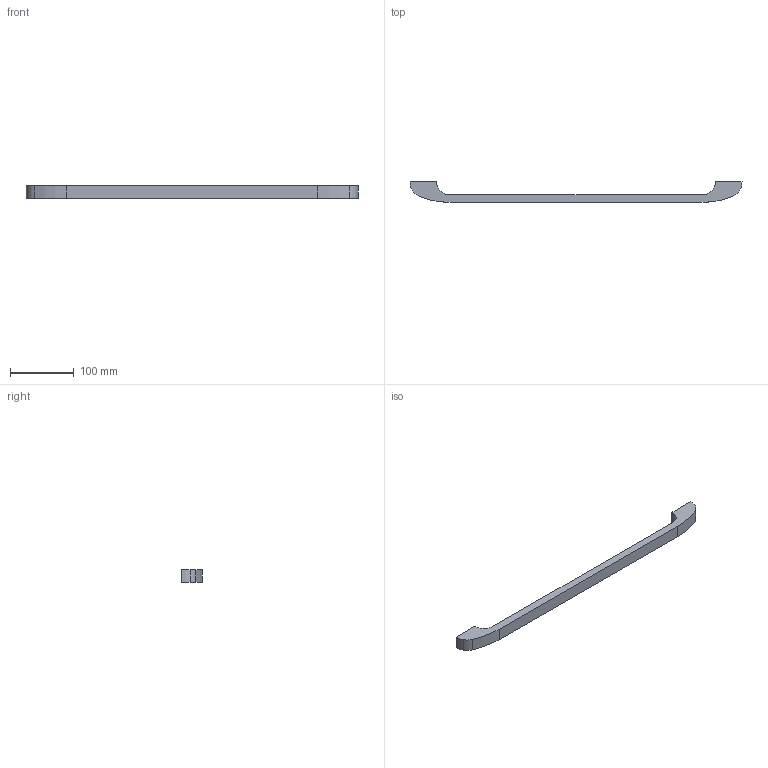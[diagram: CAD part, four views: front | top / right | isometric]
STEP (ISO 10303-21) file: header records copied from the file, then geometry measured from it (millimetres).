
FILE_DESCRIPTION( ( '' ), '1' );
FILE_NAME( 'C:/Documents and Settings/Nikhil/Desktop/Nik/Done/9145056.stp', '2013-10-23T08:50:00', ( '' ), ( '' ), ' ', ' ', ' ' );
FILE_SCHEMA( ( 'automotive_design' ) );
Length unit declared in the file: millimetre
Products named in the file (1): 1
Bounding box: 520 x 32.5 x 20 mm (x, y, z)
Volume: 148866.2 mm3; surface area: 37220.7 mm2
Topology: 1 solids, 1 shells, 22 faces, 54 edges, 36 vertices
Faces by surface type: cylinder 12, plane 10
Entity records: 1312 total; most frequent: DIRECTION 124, STYLED_ITEM 113, PRESENTATION_STYLE_ASSIGNMENT 113, CARTESIAN_POINT 113, COLOUR_RGB 113, ORIENTED_EDGE 108, EDGE_CURVE 54, CURVE_STYLE 54
